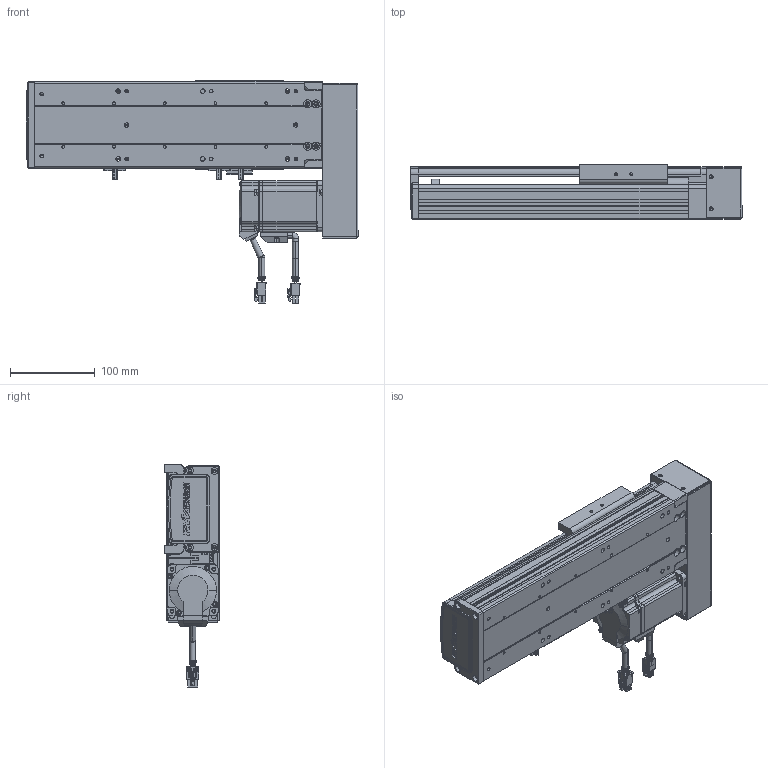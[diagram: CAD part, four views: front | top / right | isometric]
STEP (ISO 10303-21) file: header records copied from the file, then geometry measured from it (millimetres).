
FILE_DESCRIPTION (( 'STEP AP203' ), '1' );
FILE_NAME ('RY100S-L1620-300-RK(15双轨).SLDASM_150.step', '2021-02-20T08:47:36', ( '盈信电脑' ), ( '东莞市道滘镇水果街19号' ), 'SwSTEP 2.0', 'SolidWorks 2012', '' );
FILE_SCHEMA (( 'CONFIG_CONTROL_DESIGN' ));
Products named in the file (25): RY100S-L1620-300-RK(15邧寢).SLDASM_150; RY100S铝滑块（15双轨单滑块）底组装导轨; 3M30喘15遵; 蚾饜极1^RY100S-L1620-300-RK(15邧寢); 侂狟200W萇儂; 6; 7; 5; 2; 1; 4; 3; RY80肮祭湍芢雄輸; 肮祭湍3M遵15笚酗282; RY100S转折电机安装板（15双轨）; RY100S左右折电机罩（15双轨）; 滅袉蝶18-24; RY80肮祭湍覃踡啣; RY100綴裔啣; RY100S转折电机端支撑座(15双轨); 覜茼ん672; RY100俋离覜茼え; 滅袉蝶18-10; RY100S-300-LK转折型材上盖(15双轨)_150; RY100S-350-LK型材底座(低组15双轨)_150
Assembly tree (27 placements, depth 4):
  RY100S-L1620-300-RK(15邧寢).SLDASM_150
    RY100S-350-LK型材底座(低组15双轨)_150
    RY100S-300-LK转折型材上盖(15双轨)_150
    覜茼ん672  x3
    滅袉蝶18-10
    RY100俋离覜茼え
    RY100S转折电机端支撑座(15双轨)
    滅袉蝶18-24
    RY100綴裔啣
    蚾饜极1^RY100S-L1620-300-RK(15邧寢)
      RY80肮祭湍覃踡啣
      RY80肮祭湍芢雄輸  x2
      RY100S左右折电机罩（15双轨）
      RY100S转折电机安装板（15双轨）
      肮祭湍3M遵15笚酗282
      侂狟200W萇儂
        1
        2
        3
        4
        5
        6
        7
      3M30喘15遵
    RY100S铝滑块（15双轨单滑块）底组装导轨
Bounding box: 392.5 x 65 x 263.3 mm (x, y, z)
Volume: 1353391.4 mm3; surface area: 490072.7 mm2
Topology: 25 solids, 25 shells, 3068 faces, 8217 edges, 5288 vertices
Faces by surface type: plane 1656, cylinder 1129, cone 169, bspline 114
Entity records: 98876 total; most frequent: CARTESIAN_POINT 24271, ORIENTED_EDGE 15138, DIRECTION 14776, EDGE_CURVE 7569, AXIS2_PLACEMENT_3D 4999, VERTEX_POINT 4924, LINE 4778, VECTOR 4778
